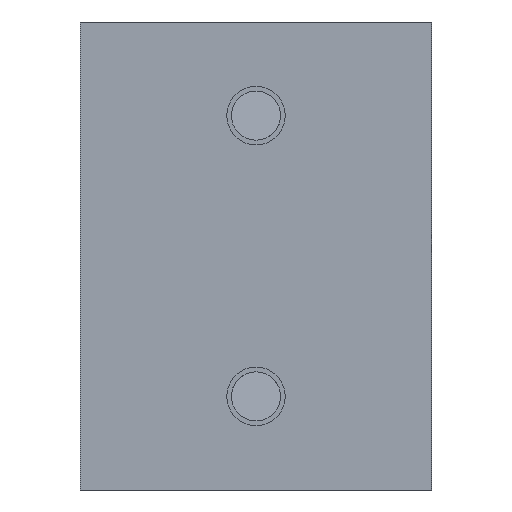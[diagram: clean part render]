
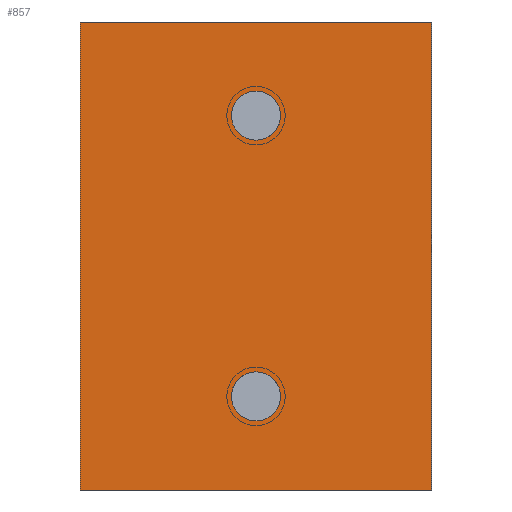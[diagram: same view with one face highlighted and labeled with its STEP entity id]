
A CAD part, left-side view. The second image highlights one B-rep face of the part: STEP entity #857.
In plain terms, the highlighted planar face has unit normal (-1, 0, 0).
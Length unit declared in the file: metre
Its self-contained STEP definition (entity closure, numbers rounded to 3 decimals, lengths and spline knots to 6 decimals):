
#277=CARTESIAN_POINT('',(-0.03,-0.015,0.012));
#278=DIRECTION('',(1.,0.,0.));
#279=DIRECTION('',(0.,0.,-1.));
#280=AXIS2_PLACEMENT_3D('',#277,#278,#279);
#282=CARTESIAN_POINT('',(-0.03,-0.015,0.012));
#283=DIRECTION('',(1.,0.,0.));
#284=DIRECTION('',(0.,0.,1.));
#285=AXIS2_PLACEMENT_3D('',#282,#283,#284);
#287=CARTESIAN_POINT('',(-0.03,-0.015,-0.012));
#288=DIRECTION('',(1.,0.,0.));
#289=DIRECTION('',(0.,0.,-1.));
#290=AXIS2_PLACEMENT_3D('',#287,#288,#289);
#292=CARTESIAN_POINT('',(-0.03,-0.015,-0.012));
#293=DIRECTION('',(1.,0.,0.));
#294=DIRECTION('',(0.,0.,1.));
#295=AXIS2_PLACEMENT_3D('',#292,#293,#294);
#297=DIRECTION('',(0.,1.,0.));
#298=VECTOR('',#297,0.03);
#299=CARTESIAN_POINT('',(-0.03,-0.03,0.02));
#300=LINE('',#299,#298);
#301=DIRECTION('',(0.,0.,1.));
#302=VECTOR('',#301,0.04);
#303=CARTESIAN_POINT('',(-0.03,-0.03,-0.02));
#304=LINE('',#303,#302);
#305=DIRECTION('',(0.,-1.,0.));
#306=VECTOR('',#305,0.03);
#307=CARTESIAN_POINT('',(-0.03,0.,-0.02));
#308=LINE('',#307,#306);
#309=DIRECTION('',(0.,0.,-1.));
#310=VECTOR('',#309,0.04);
#311=CARTESIAN_POINT('',(-0.03,0.,0.02));
#312=LINE('',#311,#310);
#449=CARTESIAN_POINT('',(-0.03,0.,0.02));
#450=CARTESIAN_POINT('',(-0.03,0.,-0.02));
#451=VERTEX_POINT('',#449);
#452=VERTEX_POINT('',#450);
#453=CARTESIAN_POINT('',(-0.03,-0.03,0.02));
#454=VERTEX_POINT('',#453);
#455=CARTESIAN_POINT('',(-0.03,-0.03,-0.02));
#456=VERTEX_POINT('',#455);
#457=CARTESIAN_POINT('',(-0.03,-0.015,-0.0099));
#458=CARTESIAN_POINT('',(-0.03,-0.015,-0.0141));
#459=VERTEX_POINT('',#457);
#460=VERTEX_POINT('',#458);
#461=CARTESIAN_POINT('',(-0.03,-0.015,0.0141));
#462=CARTESIAN_POINT('',(-0.03,-0.015,0.0099));
#463=VERTEX_POINT('',#461);
#464=VERTEX_POINT('',#462);
#834=CARTESIAN_POINT('',(-0.03,-0.03,-0.02));
#835=DIRECTION('',(-1.,0.,0.));
#836=DIRECTION('',(0.,0.,1.));
#837=AXIS2_PLACEMENT_3D('',#834,#835,#836);
#838=PLANE('',#837);
#839=ORIENTED_EDGE('',*,*,#797,.F.);
#840=ORIENTED_EDGE('',*,*,#829,.F.);
#841=ORIENTED_EDGE('',*,*,#592,.F.);
#842=ORIENTED_EDGE('',*,*,#615,.F.);
#843=EDGE_LOOP('',(#839,#840,#841,#842));
#844=FACE_OUTER_BOUND('',#843,.F.);
#846=ORIENTED_EDGE('',*,*,#845,.F.);
#848=ORIENTED_EDGE('',*,*,#847,.F.);
#849=EDGE_LOOP('',(#846,#848));
#850=FACE_BOUND('',#849,.F.);
#852=ORIENTED_EDGE('',*,*,#851,.F.);
#854=ORIENTED_EDGE('',*,*,#853,.F.);
#855=EDGE_LOOP('',(#852,#854));
#856=FACE_BOUND('',#855,.F.);
#857=ADVANCED_FACE('',(#844,#850,#856),#838,.T.);
#281=CIRCLE('',#280,0.0021);
#286=CIRCLE('',#285,0.0021);
#291=CIRCLE('',#290,0.0021);
#296=CIRCLE('',#295,0.0021);
#592=EDGE_CURVE('',#452,#456,#308,.T.);
#615=EDGE_CURVE('',#451,#452,#312,.T.);
#797=EDGE_CURVE('',#454,#451,#300,.T.);
#829=EDGE_CURVE('',#456,#454,#304,.T.);
#845=EDGE_CURVE('',#460,#459,#291,.T.);
#847=EDGE_CURVE('',#459,#460,#296,.T.);
#851=EDGE_CURVE('',#464,#463,#281,.T.);
#853=EDGE_CURVE('',#463,#464,#286,.T.);
